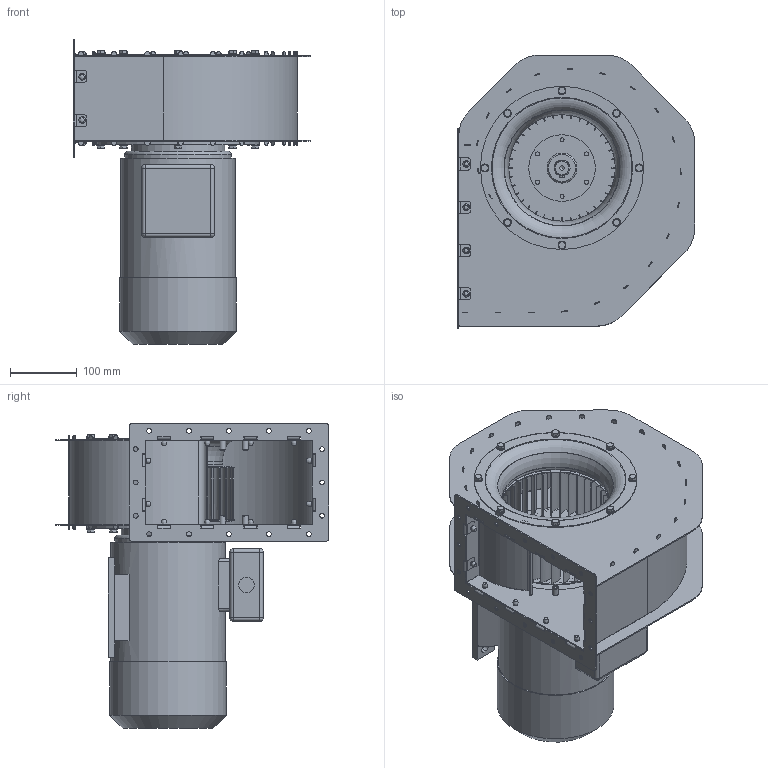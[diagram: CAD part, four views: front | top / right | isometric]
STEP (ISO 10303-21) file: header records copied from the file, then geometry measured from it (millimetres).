
FILE_DESCRIPTION(/* description */ (''),/* implementation_level */ '2;1');
FILE_NAME(/* name */ 'T:\Drawings\Standard Drawings\DATA Web Downloads\3D FILES\HFM-200-82 _ 3D12-0199.stp',/* time_stamp */ '2015-02-18T13:53:36+00:00',/* author */ ('mtinkler'),/* organization */ (''),/* preprocessor_version */ 'ST-DEVELOPER v15.6',/* originating_system */ 'Autodesk Inventor 2015',/* authorisation */ '');
FILE_SCHEMA (('AUTOMOTIVE_DESIGN { 1 0 10303 214 3 1 1 }'));
Length unit declared in the file: centimetre
Products named in the file (1): 3D12-0199
Bounding box: 356 x 411 x 458 mm (x, y, z)
Volume: 8764438.3 mm3; surface area: 1441489.4 mm2
Topology: 89 solids, 89 shells, 2211 faces, 5448 edges, 3525 vertices
Faces by surface type: plane 1235, cylinder 736, cone 165, torus 43, sphere 20, bspline 12
Full cylindrical faces by diameter (mm): 4.8 x12, 5 x24, 6 x54, 6.5 x16, 6.647 x6, 7 x16, 8 x4, 8.5 x4, 9 x32, 9.1 x16, 15.6 x4, 23.376 x1, 24 x1, 45 x2, 85 x1, 95 x1, 97 x1, 100 x1, 140 x1, 160 x2, 161 x1, 163.4 x1, 172 x1, 175 x1, 200 x2, 210 x2, 245 x2
Entity records: 67177 total; most frequent: CARTESIAN_POINT 12837, DIRECTION 11036, ORIENTED_EDGE 10106, EDGE_CURVE 5053, AXIS2_PLACEMENT_3D 4139, VERTEX_POINT 3451, EDGE_LOOP 3040, LINE 2758
